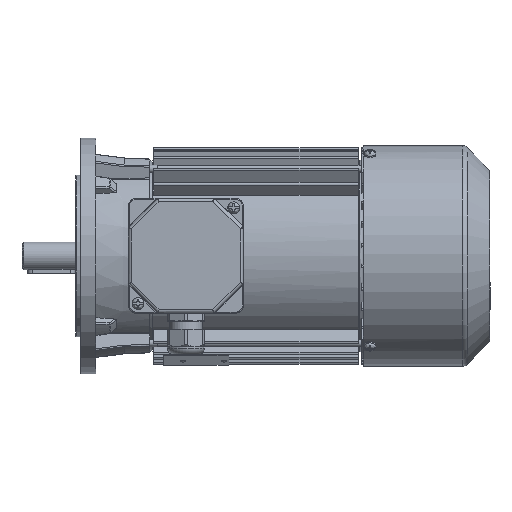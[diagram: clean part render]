
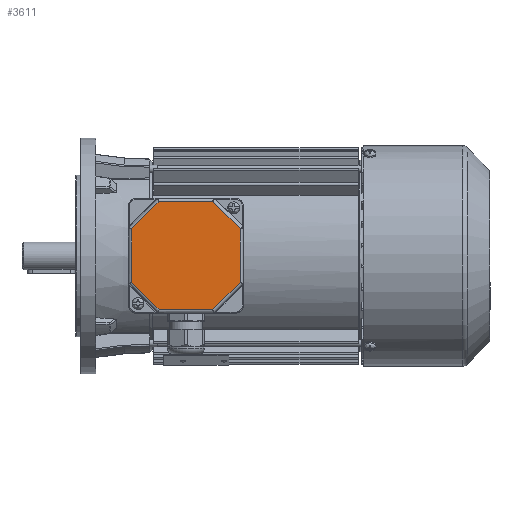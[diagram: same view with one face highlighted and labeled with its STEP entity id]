
A CAD part, top view. The second image highlights one B-rep face of the part: STEP entity #3611.
In plain terms, the highlighted planar face has unit normal (0, 0, 1).
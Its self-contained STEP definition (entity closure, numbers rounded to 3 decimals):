
#3611 = ADVANCED_FACE( '', ( #9206 ), #9207, .T. );
#9206 = FACE_OUTER_BOUND( '', #20846, .T. );
#9207 = PLANE( '', #20847 );
#20846 = EDGE_LOOP( '', ( #69401, #69402, #69403, #69404, #69405, #69406, #69407, #69408 ) );
#20847 = AXIS2_PLACEMENT_3D( '', #69409, #69410, #69411 );
#69401 = ORIENTED_EDGE( '', *, *, #91933, .T. );
#69402 = ORIENTED_EDGE( '', *, *, #91934, .T. );
#69403 = ORIENTED_EDGE( '', *, *, #91935, .T. );
#69404 = ORIENTED_EDGE( '', *, *, #91936, .T. );
#69405 = ORIENTED_EDGE( '', *, *, #91937, .T. );
#69406 = ORIENTED_EDGE( '', *, *, #91938, .T. );
#69407 = ORIENTED_EDGE( '', *, *, #91939, .T. );
#69408 = ORIENTED_EDGE( '', *, *, #91940, .T. );
#69409 = CARTESIAN_POINT( '', ( -39., 39., 12. ) );
#69410 = DIRECTION( '', ( 0., 0., 1. ) );
#69411 = DIRECTION( '', ( 1., 0., 0. ) );
#91933 = EDGE_CURVE( '', #103188, #102483, #103189, .F. );
#91934 = EDGE_CURVE( '', #102483, #102631, #103190, .T. );
#91935 = EDGE_CURVE( '', #102631, #103191, #103192, .F. );
#91936 = EDGE_CURVE( '', #103191, #103193, #103194, .T. );
#91937 = EDGE_CURVE( '', #103193, #103195, #103196, .F. );
#91938 = EDGE_CURVE( '', #103195, #103197, #103198, .T. );
#91939 = EDGE_CURVE( '', #103197, #103199, #103200, .F. );
#91940 = EDGE_CURVE( '', #103199, #103188, #103201, .T. );
#102483 = VERTEX_POINT( '', #119185 );
#102631 = VERTEX_POINT( '', #119894 );
#103188 = VERTEX_POINT( '', #122093 );
#103189 = LINE( '', #122094, #122095 );
#103190 = LINE( '', #122096, #122097 );
#103191 = VERTEX_POINT( '', #122098 );
#103192 = LINE( '', #122099, #122100 );
#103193 = VERTEX_POINT( '', #122101 );
#103194 = LINE( '', #122102, #122103 );
#103195 = VERTEX_POINT( '', #122104 );
#103196 = LINE( '', #122105, #122106 );
#103197 = VERTEX_POINT( '', #122107 );
#103198 = LINE( '', #122108, #122109 );
#103199 = VERTEX_POINT( '', #122110 );
#103200 = LINE( '', #122111, #122112 );
#103201 = LINE( '', #122113, #122114 );
#119185 = CARTESIAN_POINT( '', ( 36.825, 18.255, 12. ) );
#119894 = CARTESIAN_POINT( '', ( 18.255, 36.825, 12. ) );
#122093 = CARTESIAN_POINT( '', ( 36.825, -18.255, 12. ) );
#122094 = CARTESIAN_POINT( '', ( 36.825, 19.069, 12. ) );
#122095 = VECTOR( '', #165061, 1000. );
#122096 = CARTESIAN_POINT( '', ( 17.679, 37.401, 12. ) );
#122097 = VECTOR( '', #165062, 1000. );
#122098 = CARTESIAN_POINT( '', ( -18.255, 36.825, 12. ) );
#122099 = CARTESIAN_POINT( '', ( -19.069, 36.825, 12. ) );
#122100 = VECTOR( '', #165063, 1000. );
#122101 = CARTESIAN_POINT( '', ( -36.825, 18.255, 12. ) );
#122102 = CARTESIAN_POINT( '', ( -37.401, 17.679, 12. ) );
#122103 = VECTOR( '', #165064, 1000. );
#122104 = CARTESIAN_POINT( '', ( -36.825, -18.255, 12. ) );
#122105 = CARTESIAN_POINT( '', ( -36.825, -19.069, 12. ) );
#122106 = VECTOR( '', #165065, 1000. );
#122107 = CARTESIAN_POINT( '', ( -18.255, -36.825, 12. ) );
#122108 = CARTESIAN_POINT( '', ( -17.679, -37.401, 12. ) );
#122109 = VECTOR( '', #165066, 1000. );
#122110 = CARTESIAN_POINT( '', ( 18.255, -36.825, 12. ) );
#122111 = CARTESIAN_POINT( '', ( 19.069, -36.825, 12. ) );
#122112 = VECTOR( '', #165067, 1000. );
#122113 = CARTESIAN_POINT( '', ( 37.401, -17.679, 12. ) );
#122114 = VECTOR( '', #165068, 1000. );
#165061 = DIRECTION( '', ( 0., -1., 0. ) );
#165062 = DIRECTION( '', ( -0.707, 0.707, 0. ) );
#165063 = DIRECTION( '', ( 1., 0., 0. ) );
#165064 = DIRECTION( '', ( -0.707, -0.707, 0. ) );
#165065 = DIRECTION( '', ( 0., 1., 0. ) );
#165066 = DIRECTION( '', ( 0.707, -0.707, 0. ) );
#165067 = DIRECTION( '', ( -1., 0., 0. ) );
#165068 = DIRECTION( '', ( 0.707, 0.707, 0. ) );
